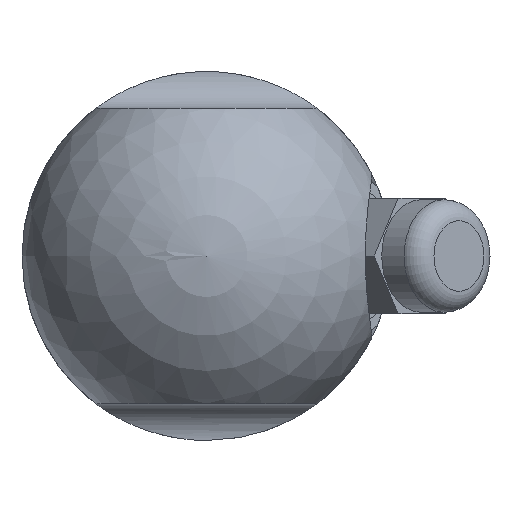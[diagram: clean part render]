
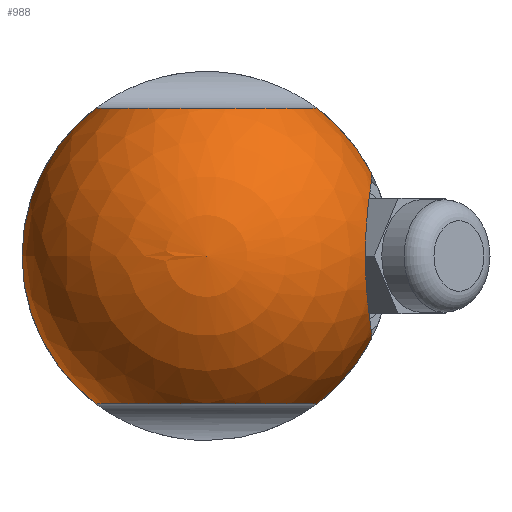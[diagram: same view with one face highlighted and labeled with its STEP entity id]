
A CAD part, left-side view. The second image highlights one B-rep face of the part: STEP entity #988.
In plain terms, the highlighted spherical face has radius 17.5 mm.
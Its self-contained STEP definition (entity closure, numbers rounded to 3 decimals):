
#20=SPHERICAL_SURFACE('',#1437,17.5);
#25=B_SPLINE_CURVE_WITH_KNOTS('',3,(#2054,#2055,#2056,#2057,#2058,#2059,
#2060,#2061,#2062,#2063,#2064),.UNSPECIFIED.,.F.,.F.,(4,1,1,1,1,1,1,1,4),
(0.,0.003,0.006,0.01,
0.013,0.016,0.019,0.023,
0.026),.UNSPECIFIED.);
#351=ORIENTED_EDGE('',*,*,#507,.F.);
#352=ORIENTED_EDGE('',*,*,#508,.F.);
#353=ORIENTED_EDGE('',*,*,#500,.T.);
#354=ORIENTED_EDGE('',*,*,#509,.F.);
#355=ORIENTED_EDGE('',*,*,#506,.T.);
#356=ORIENTED_EDGE('',*,*,#510,.F.);
#500=EDGE_CURVE('',#598,#599,#662,.F.);
#506=EDGE_CURVE('',#603,#604,#664,.F.);
#507=EDGE_CURVE('',#605,#606,#25,.T.);
#508=EDGE_CURVE('',#598,#605,#665,.T.);
#509=EDGE_CURVE('',#603,#599,#666,.T.);
#510=EDGE_CURVE('',#606,#604,#667,.T.);
#598=VERTEX_POINT('',#2021);
#599=VERTEX_POINT('',#2023);
#603=VERTEX_POINT('',#2049);
#604=VERTEX_POINT('',#2051);
#605=VERTEX_POINT('',#2065);
#606=VERTEX_POINT('',#2066);
#662=CIRCLE('',#1431,10.5);
#664=CIRCLE('',#1436,10.5);
#665=CIRCLE('',#1438,17.5);
#666=CIRCLE('',#1439,17.5);
#667=CIRCLE('',#1440,17.5);
#769=EDGE_LOOP('',(#351,#352,#353,#354,#355,#356));
#887=FACE_BOUND('',#769,.T.);
#988=ADVANCED_FACE('',(#887),#20,.T.);
#1431=AXIS2_PLACEMENT_3D('',#2024,#1697,#1698);
#1436=AXIS2_PLACEMENT_3D('',#2052,#1710,#1711);
#1437=AXIS2_PLACEMENT_3D('',#2053,#1712,#1713);
#1438=AXIS2_PLACEMENT_3D('',#2067,#1714,#1715);
#1439=AXIS2_PLACEMENT_3D('',#2068,#1716,#1717);
#1440=AXIS2_PLACEMENT_3D('',#2069,#1718,#1719);
#1697=DIRECTION('',(0.,0.,1.));
#1698=DIRECTION('',(1.,0.,0.));
#1710=DIRECTION('',(0.,0.,-1.));
#1711=DIRECTION('',(-1.,0.,0.));
#1712=DIRECTION('',(1.,0.,0.));
#1713=DIRECTION('',(0.,1.,0.));
#1714=DIRECTION('',(1.,0.,0.));
#1715=DIRECTION('',(0.,0.,-1.));
#1716=DIRECTION('',(1.,0.,0.));
#1717=DIRECTION('',(0.,0.,-1.));
#1718=DIRECTION('',(1.,0.,0.));
#1719=DIRECTION('',(0.,0.,-1.));
#2021=CARTESIAN_POINT('',(0.,-10.5,14.));
#2023=CARTESIAN_POINT('',(0.,10.5,14.));
#2024=CARTESIAN_POINT('',(0.,0.,14.));
#2049=CARTESIAN_POINT('',(0.,10.5,-14.));
#2051=CARTESIAN_POINT('',(0.,-10.5,-14.));
#2052=CARTESIAN_POINT('',(0.,0.,-14.));
#2053=CARTESIAN_POINT('',(0.,0.,0.));
#2054=CARTESIAN_POINT('',(0.,-15.621,7.89));
#2055=CARTESIAN_POINT('',(-1.086,-15.682,7.768));
#2056=CARTESIAN_POINT('',(-3.207,-15.685,7.315));
#2057=CARTESIAN_POINT('',(-6.133,-15.457,5.778));
#2058=CARTESIAN_POINT('',(-8.326,-15.165,3.265));
#2059=CARTESIAN_POINT('',(-9.174,-15.027,0.009));
#2060=CARTESIAN_POINT('',(-8.332,-15.164,-3.256));
#2061=CARTESIAN_POINT('',(-6.136,-15.457,-5.778));
#2062=CARTESIAN_POINT('',(-3.199,-15.685,-7.318));
#2063=CARTESIAN_POINT('',(-1.086,-15.682,-7.768));
#2064=CARTESIAN_POINT('',(0.,-15.621,-7.89));
#2065=CARTESIAN_POINT('',(0.,-15.621,7.89));
#2066=CARTESIAN_POINT('',(0.,-15.621,-7.89));
#2067=CARTESIAN_POINT('',(0.,0.,0.));
#2068=CARTESIAN_POINT('',(0.,0.,0.));
#2069=CARTESIAN_POINT('',(0.,0.,0.));
